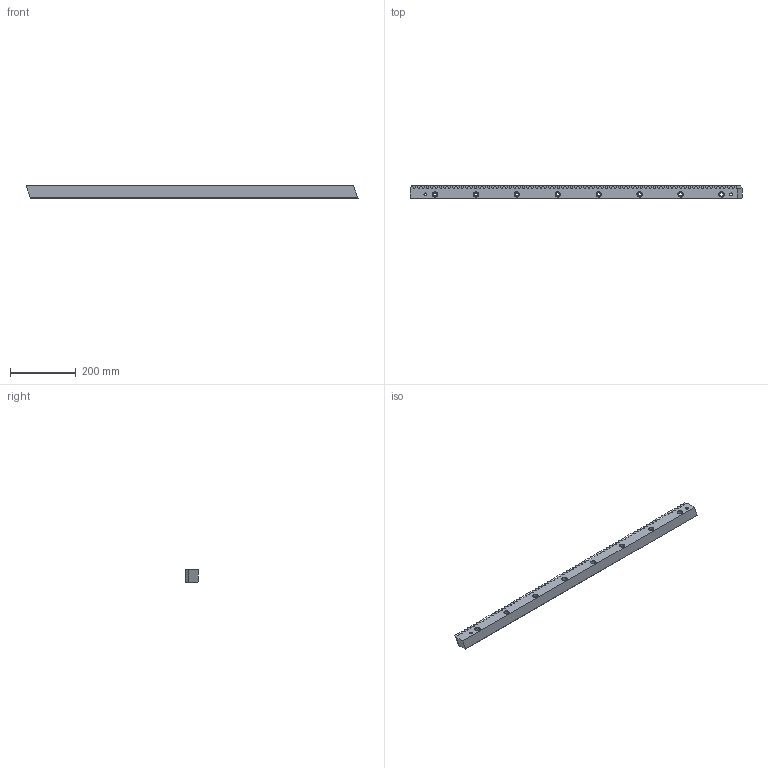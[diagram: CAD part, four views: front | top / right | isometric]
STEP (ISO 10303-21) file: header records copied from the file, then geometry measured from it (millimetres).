
FILE_DESCRIPTION (( 'STEP AP214' ), '1' );
FILE_NAME ('1HR35R040100H.STEP', '2021-12-06T09:55:57', ( '' ), ( '' ), 'SwSTEP 2.0', 'SolidWorks 2021', '' );
FILE_SCHEMA (( 'AUTOMOTIVE_DESIGN' ));
Length unit declared in the file: millimetre
Products named in the file (1): 1HR35R040100H
Bounding box: 1013.83 x 39 x 39 mm (x, y, z)
Volume: 1314491.1 mm3; surface area: 196567.9 mm2
Topology: 1 solids, 1 shells, 837 faces, 2445 edges, 1618 vertices
Faces by surface type: plane 465, cylinder 336, cone 36
Entity records: 27253 total; most frequent: CARTESIAN_POINT 6701, ORIENTED_EDGE 4890, DIRECTION 3629, EDGE_CURVE 2445, VECTOR 1737, LINE 1737, VERTEX_POINT 1618, AXIS2_PLACEMENT_3D 946
